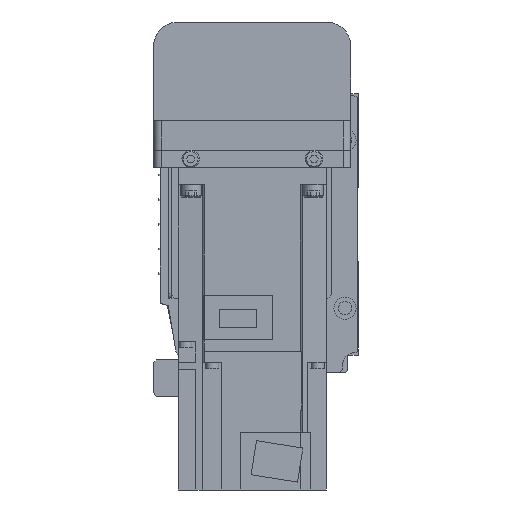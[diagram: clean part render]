
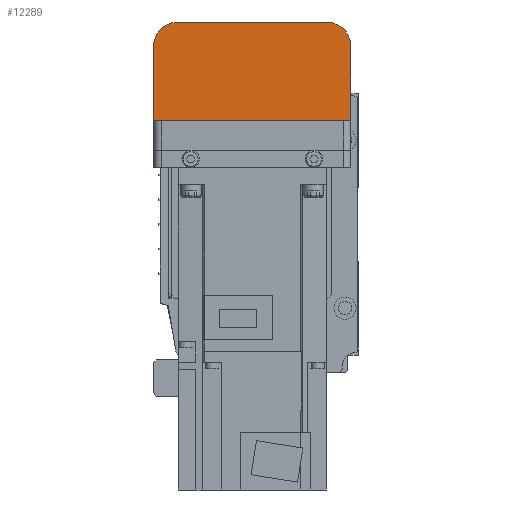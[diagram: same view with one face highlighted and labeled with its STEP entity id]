
A CAD part, left-side view. The second image highlights one B-rep face of the part: STEP entity #12289.
In plain terms, the highlighted planar face has unit normal (-1, 0, 0).
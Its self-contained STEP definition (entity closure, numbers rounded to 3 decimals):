
#467=CIRCLE('',#13225,10.);
#468=CIRCLE('',#13226,10.);
#2112=ORIENTED_EDGE('',*,*,#4979,.F.);
#2113=ORIENTED_EDGE('',*,*,#4980,.F.);
#2114=ORIENTED_EDGE('',*,*,#4981,.F.);
#2115=ORIENTED_EDGE('',*,*,#4982,.F.);
#2116=ORIENTED_EDGE('',*,*,#4983,.F.);
#2117=ORIENTED_EDGE('',*,*,#4984,.F.);
#4979=EDGE_CURVE('',#6519,#6515,#7771,.T.);
#4980=EDGE_CURVE('',#6531,#6519,#7772,.T.);
#4981=EDGE_CURVE('',#6532,#6531,#467,.T.);
#4982=EDGE_CURVE('',#6533,#6532,#7773,.T.);
#4983=EDGE_CURVE('',#6534,#6533,#468,.T.);
#4984=EDGE_CURVE('',#6515,#6534,#7774,.T.);
#6515=VERTEX_POINT('',#19165);
#6519=VERTEX_POINT('',#19175);
#6531=VERTEX_POINT('',#19204);
#6532=VERTEX_POINT('',#19206);
#6533=VERTEX_POINT('',#19208);
#6534=VERTEX_POINT('',#19210);
#7771=LINE('',#19202,#8999);
#7772=LINE('',#19203,#9000);
#7773=LINE('',#19207,#9001);
#7774=LINE('',#19211,#9002);
#8999=VECTOR('',#15430,1000.);
#9000=VECTOR('',#15431,1000.);
#9001=VECTOR('',#15434,1000.);
#9002=VECTOR('',#15437,1000.);
#10054=EDGE_LOOP('',(#2112,#2113,#2114,#2115,#2116,#2117));
#10972=FACE_BOUND('',#10054,.T.);
#11733=PLANE('',#13224);
#12289=ADVANCED_FACE('',(#10972),#11733,.F.);
#13224=AXIS2_PLACEMENT_3D('',#19201,#15428,#15429);
#13225=AXIS2_PLACEMENT_3D('',#19205,#15432,#15433);
#13226=AXIS2_PLACEMENT_3D('',#19209,#15435,#15436);
#15428=DIRECTION('',(1.,0.,0.));
#15429=DIRECTION('',(0.,0.,-1.));
#15430=DIRECTION('',(0.,-1.,0.));
#15431=DIRECTION('',(0.,0.,1.));
#15432=DIRECTION('',(1.,0.,0.));
#15433=DIRECTION('',(0.,0.,-1.));
#15434=DIRECTION('',(0.,1.,0.));
#15435=DIRECTION('',(1.,0.,0.));
#15436=DIRECTION('',(0.,0.,-1.));
#15437=DIRECTION('',(0.,0.,-1.));
#19165=CARTESIAN_POINT('',(-192.,-40.,-12.1));
#19175=CARTESIAN_POINT('',(-192.,40.,-12.1));
#19201=CARTESIAN_POINT('',(-192.,37.,7.));
#19202=CARTESIAN_POINT('',(-192.,50.,-12.1));
#19203=CARTESIAN_POINT('',(-192.,40.,-42.));
#19204=CARTESIAN_POINT('',(-192.,40.,-42.));
#19205=CARTESIAN_POINT('',(-192.,30.,-42.));
#19206=CARTESIAN_POINT('',(-192.,30.,-52.));
#19207=CARTESIAN_POINT('',(-192.,-30.,-52.));
#19208=CARTESIAN_POINT('',(-192.,-30.,-52.));
#19209=CARTESIAN_POINT('',(-192.,-30.,-42.));
#19210=CARTESIAN_POINT('',(-192.,-40.,-42.));
#19211=CARTESIAN_POINT('',(-192.,-40.,-12.1));
